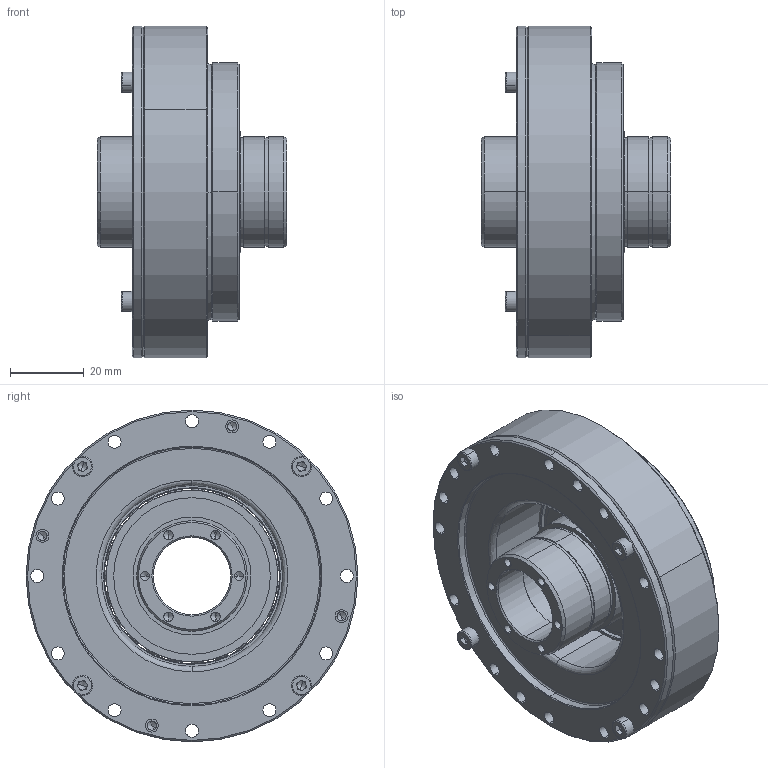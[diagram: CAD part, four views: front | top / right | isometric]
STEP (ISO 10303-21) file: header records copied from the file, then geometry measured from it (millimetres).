
FILE_DESCRIPTION (( 'STEP AP203' ), '1' );
FILE_NAME ('LHS-20-XXX-C-III-ST.step', '2025-01-07T06:18:14', ( '' ), ( '' ), 'SwSTEP 2.0', 'SolidWorks 2023', '' );
FILE_SCHEMA (( 'CONFIG_CONTROL_DESIGN' ));
Length unit declared in the file: metre
Products named in the file (1): LHS-20-XXX-C-III-ST
Bounding box: 51.5 x 90 x 90 mm (x, y, z)
Volume: 108732.4 mm3; surface area: 85475.3 mm2
Topology: 41 solids, 41 shells, 872 faces, 2129 edges, 1244 vertices
Faces by surface type: cylinder 379, plane 217, cone 154, bspline 122
Entity records: 28915 total; most frequent: CARTESIAN_POINT 8792, DIRECTION 4505, ORIENTED_EDGE 3906, EDGE_CURVE 1953, AXIS2_PLACEMENT_3D 1867, VERTEX_POINT 1244, CIRCLE 1116, EDGE_LOOP 1085
